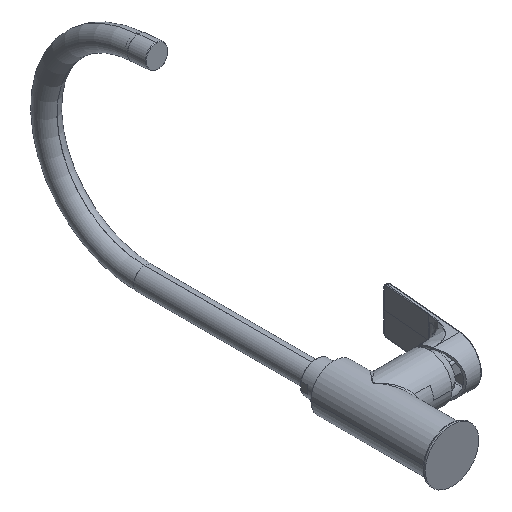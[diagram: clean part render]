
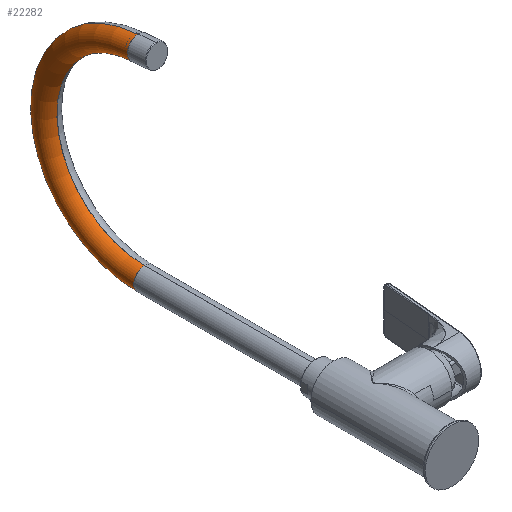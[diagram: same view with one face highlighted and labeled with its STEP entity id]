
A CAD part, isometric view. The second image highlights one B-rep face of the part: STEP entity #22282.
In plain terms, the highlighted toroidal (fillet/blend) face has major radius 90 mm and minor radius 10 mm.
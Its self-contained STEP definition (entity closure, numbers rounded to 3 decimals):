
#21119=CARTESIAN_POINT('',(0.,277.9,90.));
#21120=DIRECTION('',(1.,0.,0.));
#21121=DIRECTION('',(0.,0.,-1.));
#21122=AXIS2_PLACEMENT_3D('',#21119,#21120,#21121);
#21172=CARTESIAN_POINT('',(0.,284.088,
189.808));
#21173=CARTESIAN_POINT('',(-0.129,284.088,
189.808));
#21174=CARTESIAN_POINT('',(-0.388,284.088,
189.803));
#21175=CARTESIAN_POINT('',(-0.775,284.086,
189.781));
#21176=CARTESIAN_POINT('',(-1.161,284.083,
189.743));
#21177=CARTESIAN_POINT('',(-1.545,284.078,
189.691));
#21178=CARTESIAN_POINT('',(-1.927,284.072,
189.624));
#21179=CARTESIAN_POINT('',(-2.306,284.065,
189.542));
#21180=CARTESIAN_POINT('',(-2.682,284.057,
189.446));
#21181=CARTESIAN_POINT('',(-3.053,284.047,
189.335));
#21182=CARTESIAN_POINT('',(-3.421,284.036,
189.21));
#21183=CARTESIAN_POINT('',(-3.782,284.024,
189.071));
#21184=CARTESIAN_POINT('',(-4.139,284.01,
188.918));
#21185=CARTESIAN_POINT('',(-4.488,283.996,
188.751));
#21186=CARTESIAN_POINT('',(-4.832,283.98,
188.571));
#21187=CARTESIAN_POINT('',(-5.168,283.963,
188.378));
#21188=CARTESIAN_POINT('',(-5.496,283.945,
188.172));
#21189=CARTESIAN_POINT('',(-5.816,283.926,
187.953));
#21190=CARTESIAN_POINT('',(-6.127,283.906,
187.722));
#21191=CARTESIAN_POINT('',(-6.429,283.885,
187.479));
#21192=CARTESIAN_POINT('',(-6.721,283.862,
187.225));
#21193=CARTESIAN_POINT('',(-7.003,283.839,
186.96));
#21194=CARTESIAN_POINT('',(-7.275,283.815,
186.684));
#21195=CARTESIAN_POINT('',(-7.536,283.79,
186.398));
#21196=CARTESIAN_POINT('',(-7.785,283.764,
186.102));
#21197=CARTESIAN_POINT('',(-8.023,283.737,
185.796));
#21198=CARTESIAN_POINT('',(-8.248,283.71,
185.482));
#21199=CARTESIAN_POINT('',(-8.462,283.681,
185.159));
#21200=CARTESIAN_POINT('',(-8.662,283.653,
184.828));
#21201=CARTESIAN_POINT('',(-8.849,283.623,
184.489));
#21202=CARTESIAN_POINT('',(-9.024,283.593,
184.144));
#21203=CARTESIAN_POINT('',(-9.184,283.562,
183.792));
#21204=CARTESIAN_POINT('',(-9.331,283.531,
183.434));
#21205=CARTESIAN_POINT('',(-9.464,283.499,
183.071));
#21206=CARTESIAN_POINT('',(-9.582,283.467,
182.702));
#21207=CARTESIAN_POINT('',(-9.686,283.434,
182.33));
#21208=CARTESIAN_POINT('',(-9.776,283.401,
181.953));
#21209=CARTESIAN_POINT('',(-9.85,283.368,
181.574));
#21210=CARTESIAN_POINT('',(-9.91,283.334,
181.192));
#21211=CARTESIAN_POINT('',(-9.956,283.301,
180.808));
#21212=CARTESIAN_POINT('',(-9.986,283.267,
180.423));
#21213=CARTESIAN_POINT('',(-10.001,283.233,
180.036));
#21214=CARTESIAN_POINT('',(-10.001,283.199,
179.649));
#21215=CARTESIAN_POINT('',(-9.986,283.166,
179.263));
#21216=CARTESIAN_POINT('',(-9.955,283.132,
178.878));
#21217=CARTESIAN_POINT('',(-9.91,283.098,
178.493));
#21218=CARTESIAN_POINT('',(-9.85,283.065,
178.111));
#21219=CARTESIAN_POINT('',(-9.776,283.032,
177.732));
#21220=CARTESIAN_POINT('',(-9.686,282.999,
177.356));
#21221=CARTESIAN_POINT('',(-9.582,282.966,
176.983));
#21222=CARTESIAN_POINT('',(-9.464,282.934,
176.615));
#21223=CARTESIAN_POINT('',(-9.331,282.902,
176.251));
#21224=CARTESIAN_POINT('',(-9.184,282.871,
175.894));
#21225=CARTESIAN_POINT('',(-9.023,282.84,
175.541));
#21226=CARTESIAN_POINT('',(-8.849,282.81,
175.196));
#21227=CARTESIAN_POINT('',(-8.662,282.78,
174.857));
#21228=CARTESIAN_POINT('',(-8.461,282.751,
174.526));
#21229=CARTESIAN_POINT('',(-8.248,282.723,
174.203));
#21230=CARTESIAN_POINT('',(-8.022,282.695,
173.889));
#21231=CARTESIAN_POINT('',(-7.785,282.669,
173.583));
#21232=CARTESIAN_POINT('',(-7.535,282.643,
173.287));
#21233=CARTESIAN_POINT('',(-7.275,282.618,
173.001));
#21234=CARTESIAN_POINT('',(-7.003,282.594,
172.725));
#21235=CARTESIAN_POINT('',(-6.721,282.57,
172.46));
#21236=CARTESIAN_POINT('',(-6.428,282.548,
172.205));
#21237=CARTESIAN_POINT('',(-6.126,282.527,
171.963));
#21238=CARTESIAN_POINT('',(-5.815,282.507,
171.732));
#21239=CARTESIAN_POINT('',(-5.495,282.488,
171.513));
#21240=CARTESIAN_POINT('',(-5.167,282.47,
171.307));
#21241=CARTESIAN_POINT('',(-4.831,282.453,
171.114));
#21242=CARTESIAN_POINT('',(-4.488,282.437,
170.934));
#21243=CARTESIAN_POINT('',(-4.138,282.422,
170.767));
#21244=CARTESIAN_POINT('',(-3.782,282.409,
170.614));
#21245=CARTESIAN_POINT('',(-3.42,282.397,
170.475));
#21246=CARTESIAN_POINT('',(-3.053,282.386,
170.35));
#21247=CARTESIAN_POINT('',(-2.682,282.376,
170.239));
#21248=CARTESIAN_POINT('',(-2.306,282.368,
170.143));
#21249=CARTESIAN_POINT('',(-1.927,282.361,
170.061));
#21250=CARTESIAN_POINT('',(-1.545,282.355,
169.994));
#21251=CARTESIAN_POINT('',(-1.161,282.35,
169.941));
#21252=CARTESIAN_POINT('',(-0.775,282.347,
169.904));
#21253=CARTESIAN_POINT('',(-0.388,282.345,
169.881));
#21254=CARTESIAN_POINT('',(-0.129,282.344,
169.876));
#21255=CARTESIAN_POINT('',(0.,282.344,
169.876));
#21257=CARTESIAN_POINT('',(0.,277.9,0.));
#21258=DIRECTION('',(0.,1.,0.));
#21259=DIRECTION('',(0.,0.,-1.));
#21260=AXIS2_PLACEMENT_3D('',#21257,#21258,#21259);
#21262=CARTESIAN_POINT('',(0.,277.9,90.));
#21263=DIRECTION('',(1.,0.,0.));
#21264=DIRECTION('',(0.,0.,-1.));
#21265=AXIS2_PLACEMENT_3D('',#21262,#21263,#21264);
#21649=CARTESIAN_POINT('',(0.,277.9,-10.));
#21650=CARTESIAN_POINT('',(0.,277.9,10.));
#21651=VERTEX_POINT('',#21649);
#21652=VERTEX_POINT('',#21650);
#21777=VERTEX_POINT('',#21172);
#21778=VERTEX_POINT('',#21255);
#22271=CARTESIAN_POINT('',(0.,277.9,90.));
#22272=DIRECTION('',(1.,0.,0.));
#22273=DIRECTION('',(0.,0.,1.));
#22274=AXIS2_PLACEMENT_3D('',#22271,#22272,#22273);
#22275=TOROIDAL_SURFACE('',#22274,90.,10.);
#22276=ORIENTED_EDGE('',*,*,#22199,.T.);
#22277=ORIENTED_EDGE('',*,*,#22183,.F.);
#22278=ORIENTED_EDGE('',*,*,#22153,.F.);
#22279=ORIENTED_EDGE('',*,*,#22180,.T.);
#22280=EDGE_LOOP('',(#22276,#22277,#22278,#22279));
#22281=FACE_OUTER_BOUND('',#22280,.F.);
#22282=ADVANCED_FACE('',(#22281),#22275,.T.);
#21123=CIRCLE('',#21122,80.);
#21256=B_SPLINE_CURVE_WITH_KNOTS('',3,(#21172,#21173,#21174,#21175,#21176,
#21177,#21178,#21179,#21180,#21181,#21182,#21183,#21184,#21185,#21186,#21187,
#21188,#21189,#21190,#21191,#21192,#21193,#21194,#21195,#21196,#21197,#21198,
#21199,#21200,#21201,#21202,#21203,#21204,#21205,#21206,#21207,#21208,#21209,
#21210,#21211,#21212,#21213,#21214,#21215,#21216,#21217,#21218,#21219,#21220,
#21221,#21222,#21223,#21224,#21225,#21226,#21227,#21228,#21229,#21230,#21231,
#21232,#21233,#21234,#21235,#21236,#21237,#21238,#21239,#21240,#21241,#21242,
#21243,#21244,#21245,#21246,#21247,#21248,#21249,#21250,#21251,#21252,#21253,
#21254,#21255),.UNSPECIFIED.,.F.,.F.,(4,1,1,1,1,1,1,1,1,1,1,1,1,1,1,1,1,1,1,1,1,
1,1,1,1,1,1,1,1,1,1,1,1,1,1,1,1,1,1,1,1,1,1,1,1,1,1,1,1,1,1,1,1,1,1,1,1,1,1,1,1,
1,1,1,1,1,1,1,1,1,1,1,1,1,1,1,1,1,1,1,1,4),(0.,0.012,
0.025,0.037,0.049,0.062,
0.074,0.086,0.099,0.111,
0.123,0.136,0.148,0.16,
0.173,0.185,0.198,0.21,
0.222,0.235,0.247,0.259,
0.272,0.284,0.296,0.309,
0.321,0.333,0.346,0.358,
0.37,0.383,0.395,0.407,
0.42,0.432,0.444,0.457,
0.469,0.481,0.494,0.506,
0.519,0.531,0.543,0.556,
0.568,0.58,0.593,0.605,
0.617,0.63,0.642,0.654,
0.667,0.679,0.691,0.704,
0.716,0.728,0.741,0.753,
0.765,0.778,0.79,0.802,
0.815,0.827,0.84,0.852,
0.864,0.877,0.889,0.901,
0.914,0.926,0.938,0.951,
0.963,0.975,0.988,1.),.UNSPECIFIED.);
#21261=CIRCLE('',#21260,10.);
#21266=CIRCLE('',#21265,100.);
#22153=EDGE_CURVE('',#21651,#21652,#21261,.T.);
#22180=EDGE_CURVE('',#21651,#21777,#21266,.T.);
#22183=EDGE_CURVE('',#21652,#21778,#21123,.T.);
#22199=EDGE_CURVE('',#21777,#21778,#21256,.T.);
